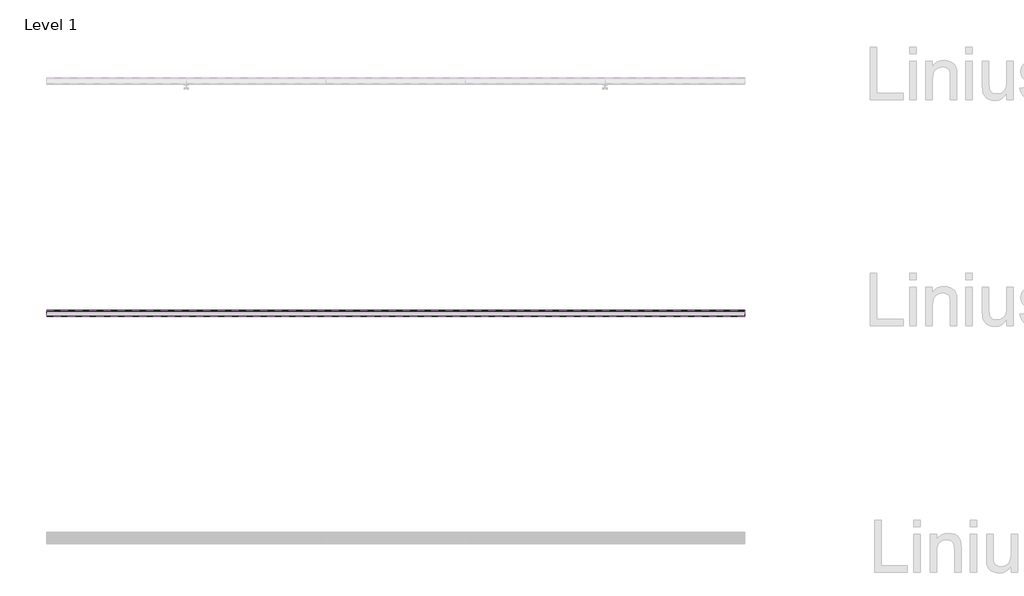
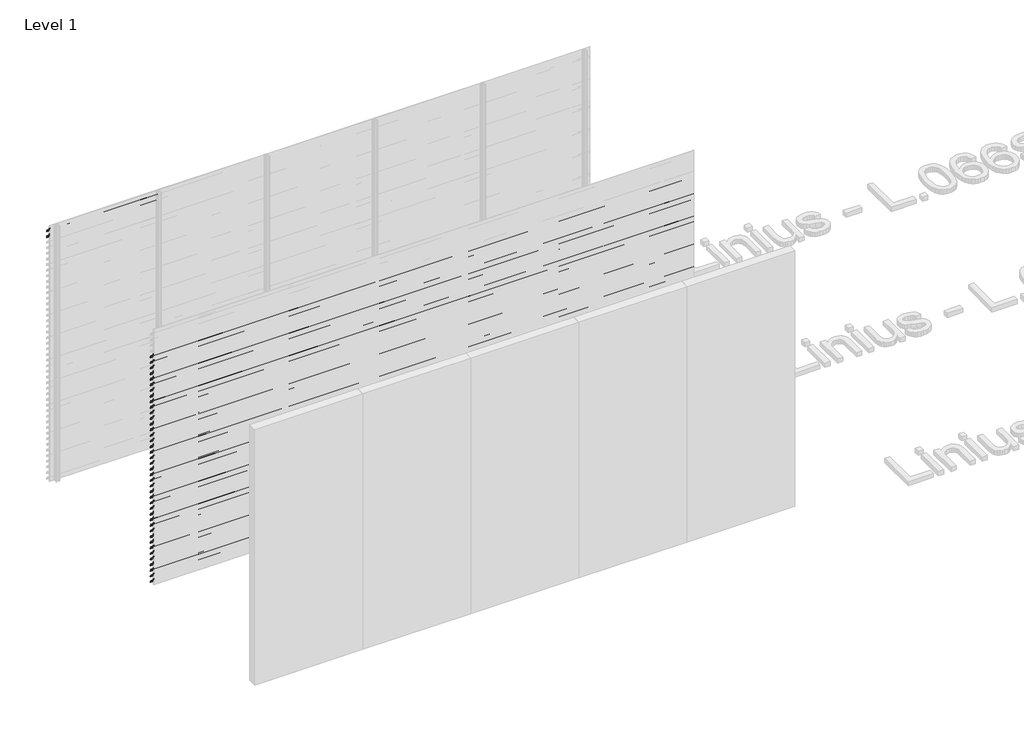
# One storey, part 131 of 540: 43 proxies.
"""IFC4 building model written with IfcOpenShell, lengths in millimetres."""

from ifc_helpers import new_model, si_unit, point, frame, frame_2d, origin, place, context, project, spatial, polyline, circle_curve, trimmed, segment, composite_curve, outline, extrude, element, save

model = new_model("IFC4")

# Units and contexts
model_context = context("Model", 3, world=origin())
ifc_project = project(units=[si_unit("LENGTHUNIT", "METRE", prefix="MILLI")], contexts=[model_context])

# Site, building, storey
site = spatial("IfcSite", under=ifc_project)
building = spatial("IfcBuilding", under=site)
storey = spatial("IfcBuildingStorey", under=building, Name="Level 1", Elevation=0.0)

# Proxies
placement = place(None, origin())
element("IfcBuildingElementProxy", 1, Name="Wall Sweeps", at=placement, inside=storey, context=model_context, shape_type="SweptSolid", body=[
    extrude(outline(composite_curve([segment(trimmed(circle_curve(frame_2d((21513.609548, 2899.7676769)), 26.4944656), [point((21530.5717655, 2920.1205608))], [point((21540.0540136, 2901.3946208))], False, "CARTESIAN"), True, "CONTINUOUS"), segment(polyline([(21540.0540136, 2901.3946208), (21540.0540136, 2893.5), (21538.8040136, 2894.2216933), (21538.8040136, 2899.7676769)]), True, "CONTINUOUS"), segment(trimmed(circle_curve(frame_2d((21513.609548, 2899.7676769)), 25.1944656), [point((21538.8040136, 2899.7676769))], [point((21529.7815085, 2919.086807))], True, "CARTESIAN"), True, "CONTINUOUS"), segment(polyline([(21529.7815085, 2919.086807), (21485.0540136, 2950.3158044), (21485.0540136, 2970.0), (21486.3040136, 2970.0), (21486.3040136, 2951.0285629), (21530.5717655, 2920.1205608)]), True, "CONTINUOUS")], self_intersect=False)), frame((89466.6208097, 0.0, 0.0), z_axis=(1.0, 0.0, 0.0), x_axis=(0.0, 1.0, 0.0)), (0.0, 0.0, 1.0), 1200.0000002),
])
element("IfcBuildingElementProxy", 2, Name="Wall Sweeps", at=placement, inside=storey, context=model_context, shape_type="SweptSolid", body=[
    extrude(outline(composite_curve([segment(trimmed(circle_curve(frame_2d((21513.609548, 2833.7676769)), 26.4944656), [point((21530.5717655, 2854.1205608))], [point((21540.0540136, 2835.3946208))], False, "CARTESIAN"), True, "CONTINUOUS"), segment(polyline([(21540.0540136, 2835.3946208), (21540.0540136, 2827.5), (21538.8040136, 2828.2216933), (21538.8040136, 2833.7676769)]), True, "CONTINUOUS"), segment(trimmed(circle_curve(frame_2d((21513.609548, 2833.7676769)), 25.1944656), [point((21538.8040136, 2833.7676769))], [point((21529.7815085, 2853.086807))], True, "CARTESIAN"), True, "CONTINUOUS"), segment(polyline([(21529.7815085, 2853.086807), (21485.0540136, 2884.3158044), (21485.0540136, 2904.0), (21486.3040136, 2904.0), (21486.3040136, 2885.0285629), (21530.5717655, 2854.1205608)]), True, "CONTINUOUS")], self_intersect=False)), frame((89466.6208097, 0.0, 0.0), z_axis=(1.0, 0.0, 0.0), x_axis=(0.0, 1.0, 0.0)), (0.0, 0.0, 1.0), 1200.0000002),
])
element("IfcBuildingElementProxy", 3, Name="Wall Sweeps", at=placement, inside=storey, context=model_context, shape_type="SweptSolid", body=[
    extrude(outline(composite_curve([segment(trimmed(circle_curve(frame_2d((19513.609548, 2635.7676769)), 26.4944656), [point((19530.5717655, 2656.1205608))], [point((19540.0540136, 2637.3946208))], False, "CARTESIAN"), True, "CONTINUOUS"), segment(polyline([(19540.0540136, 2637.3946208), (19540.0540136, 2629.5), (19538.8040136, 2630.2216933), (19538.8040136, 2635.7676769)]), True, "CONTINUOUS"), segment(trimmed(circle_curve(frame_2d((19513.609548, 2635.7676769)), 25.1944656), [point((19538.8040136, 2635.7676769))], [point((19529.7815085, 2655.086807))], True, "CARTESIAN"), True, "CONTINUOUS"), segment(polyline([(19529.7815085, 2655.086807), (19485.0540136, 2686.3158044), (19485.0540136, 2706.0), (19486.3040136, 2706.0), (19486.3040136, 2687.0285629), (19530.5717655, 2656.1205608)]), True, "CONTINUOUS")], self_intersect=False)), frame((89466.6208097, 0.0, 0.0), z_axis=(1.0, 0.0, 0.0), x_axis=(0.0, 1.0, 0.0)), (0.0, 0.0, 1.0), 6000.0),
])
element("IfcBuildingElementProxy", 4, Name="Wall Sweeps", at=placement, inside=storey, context=model_context, shape_type="SweptSolid", body=[
    extrude(outline(composite_curve([segment(trimmed(circle_curve(frame_2d((19513.609548, 2569.7676769)), 26.4944656), [point((19530.5717655, 2590.1205608))], [point((19540.0540136, 2571.3946208))], False, "CARTESIAN"), True, "CONTINUOUS"), segment(polyline([(19540.0540136, 2571.3946208), (19540.0540136, 2563.5), (19538.8040136, 2564.2216933), (19538.8040136, 2569.7676769)]), True, "CONTINUOUS"), segment(trimmed(circle_curve(frame_2d((19513.609548, 2569.7676769)), 25.1944656), [point((19538.8040136, 2569.7676769))], [point((19529.7815085, 2589.086807))], True, "CARTESIAN"), True, "CONTINUOUS"), segment(polyline([(19529.7815085, 2589.086807), (19485.0540136, 2620.3158044), (19485.0540136, 2640.0), (19486.3040136, 2640.0), (19486.3040136, 2621.0285629), (19530.5717655, 2590.1205608)]), True, "CONTINUOUS")], self_intersect=False)), frame((89466.6208097, 0.0, 0.0), z_axis=(1.0, 0.0, 0.0), x_axis=(0.0, 1.0, 0.0)), (0.0, 0.0, 1.0), 6000.0),
])
element("IfcBuildingElementProxy", 5, Name="Wall Sweeps", at=placement, inside=storey, context=model_context, shape_type="SweptSolid", body=[
    extrude(outline(composite_curve([segment(trimmed(circle_curve(frame_2d((19513.609548, 2503.7676769)), 26.4944656), [point((19530.5717655, 2524.1205608))], [point((19540.0540136, 2505.3946208))], False, "CARTESIAN"), True, "CONTINUOUS"), segment(polyline([(19540.0540136, 2505.3946208), (19540.0540136, 2497.5), (19538.8040136, 2498.2216933), (19538.8040136, 2503.7676769)]), True, "CONTINUOUS"), segment(trimmed(circle_curve(frame_2d((19513.609548, 2503.7676769)), 25.1944656), [point((19538.8040136, 2503.7676769))], [point((19529.7815085, 2523.086807))], True, "CARTESIAN"), True, "CONTINUOUS"), segment(polyline([(19529.7815085, 2523.086807), (19485.0540136, 2554.3158044), (19485.0540136, 2574.0), (19486.3040136, 2574.0), (19486.3040136, 2555.0285629), (19530.5717655, 2524.1205608)]), True, "CONTINUOUS")], self_intersect=False)), frame((89466.6208097, 0.0, 0.0), z_axis=(1.0, 0.0, 0.0), x_axis=(0.0, 1.0, 0.0)), (0.0, 0.0, 1.0), 6000.0),
])
element("IfcBuildingElementProxy", 6, Name="Wall Sweeps", at=placement, inside=storey, context=model_context, shape_type="SweptSolid", body=[
    extrude(outline(composite_curve([segment(trimmed(circle_curve(frame_2d((19513.609548, 2437.7676769)), 26.4944656), [point((19530.5717655, 2458.1205608))], [point((19540.0540136, 2439.3946208))], False, "CARTESIAN"), True, "CONTINUOUS"), segment(polyline([(19540.0540136, 2439.3946208), (19540.0540136, 2431.5), (19538.8040136, 2432.2216933), (19538.8040136, 2437.7676769)]), True, "CONTINUOUS"), segment(trimmed(circle_curve(frame_2d((19513.609548, 2437.7676769)), 25.1944656), [point((19538.8040136, 2437.7676769))], [point((19529.7815085, 2457.086807))], True, "CARTESIAN"), True, "CONTINUOUS"), segment(polyline([(19529.7815085, 2457.086807), (19485.0540136, 2488.3158044), (19485.0540136, 2508.0), (19486.3040136, 2508.0), (19486.3040136, 2489.0285629), (19530.5717655, 2458.1205608)]), True, "CONTINUOUS")], self_intersect=False)), frame((89466.6208097, 0.0, 0.0), z_axis=(1.0, 0.0, 0.0), x_axis=(0.0, 1.0, 0.0)), (0.0, 0.0, 1.0), 6000.0),
])
element("IfcBuildingElementProxy", 7, Name="Wall Sweeps", at=placement, inside=storey, context=model_context, shape_type="SweptSolid", body=[
    extrude(outline(composite_curve([segment(trimmed(circle_curve(frame_2d((19513.609548, 2371.7676769)), 26.4944656), [point((19530.5717655, 2392.1205608))], [point((19540.0540136, 2373.3946208))], False, "CARTESIAN"), True, "CONTINUOUS"), segment(polyline([(19540.0540136, 2373.3946208), (19540.0540136, 2365.5), (19538.8040136, 2366.2216933), (19538.8040136, 2371.7676769)]), True, "CONTINUOUS"), segment(trimmed(circle_curve(frame_2d((19513.609548, 2371.7676769)), 25.1944656), [point((19538.8040136, 2371.7676769))], [point((19529.7815085, 2391.086807))], True, "CARTESIAN"), True, "CONTINUOUS"), segment(polyline([(19529.7815085, 2391.086807), (19485.0540136, 2422.3158044), (19485.0540136, 2442.0), (19486.3040136, 2442.0), (19486.3040136, 2423.0285629), (19530.5717655, 2392.1205608)]), True, "CONTINUOUS")], self_intersect=False)), frame((89466.6208097, 0.0, 0.0), z_axis=(1.0, 0.0, 0.0), x_axis=(0.0, 1.0, 0.0)), (0.0, 0.0, 1.0), 6000.0),
])
element("IfcBuildingElementProxy", 8, Name="Wall Sweeps", at=placement, inside=storey, context=model_context, shape_type="SweptSolid", body=[
    extrude(outline(composite_curve([segment(trimmed(circle_curve(frame_2d((19513.609548, 2305.7676769)), 26.4944656), [point((19530.5717655, 2326.1205608))], [point((19540.0540136, 2307.3946208))], False, "CARTESIAN"), True, "CONTINUOUS"), segment(polyline([(19540.0540136, 2307.3946208), (19540.0540136, 2299.5), (19538.8040136, 2300.2216933), (19538.8040136, 2305.7676769)]), True, "CONTINUOUS"), segment(trimmed(circle_curve(frame_2d((19513.609548, 2305.7676769)), 25.1944656), [point((19538.8040136, 2305.7676769))], [point((19529.7815085, 2325.086807))], True, "CARTESIAN"), True, "CONTINUOUS"), segment(polyline([(19529.7815085, 2325.086807), (19485.0540136, 2356.3158044), (19485.0540136, 2376.0), (19486.3040136, 2376.0), (19486.3040136, 2357.0285629), (19530.5717655, 2326.1205608)]), True, "CONTINUOUS")], self_intersect=False)), frame((89466.6208097, 0.0, 0.0), z_axis=(1.0, 0.0, 0.0), x_axis=(0.0, 1.0, 0.0)), (0.0, 0.0, 1.0), 6000.0),
])
element("IfcBuildingElementProxy", 9, Name="Wall Sweeps", at=placement, inside=storey, context=model_context, shape_type="SweptSolid", body=[
    extrude(outline(composite_curve([segment(trimmed(circle_curve(frame_2d((19513.609548, 2239.7676769)), 26.4944656), [point((19530.5717655, 2260.1205608))], [point((19540.0540136, 2241.3946208))], False, "CARTESIAN"), True, "CONTINUOUS"), segment(polyline([(19540.0540136, 2241.3946208), (19540.0540136, 2233.5), (19538.8040136, 2234.2216933), (19538.8040136, 2239.7676769)]), True, "CONTINUOUS"), segment(trimmed(circle_curve(frame_2d((19513.609548, 2239.7676769)), 25.1944656), [point((19538.8040136, 2239.7676769))], [point((19529.7815085, 2259.086807))], True, "CARTESIAN"), True, "CONTINUOUS"), segment(polyline([(19529.7815085, 2259.086807), (19485.0540136, 2290.3158044), (19485.0540136, 2310.0), (19486.3040136, 2310.0), (19486.3040136, 2291.0285629), (19530.5717655, 2260.1205608)]), True, "CONTINUOUS")], self_intersect=False)), frame((89466.6208097, 0.0, 0.0), z_axis=(1.0, 0.0, 0.0), x_axis=(0.0, 1.0, 0.0)), (0.0, 0.0, 1.0), 6000.0),
])
element("IfcBuildingElementProxy", 10, Name="Wall Sweeps", at=placement, inside=storey, context=model_context, shape_type="SweptSolid", body=[
    extrude(outline(composite_curve([segment(trimmed(circle_curve(frame_2d((19513.609548, 2173.7676769)), 26.4944656), [point((19530.5717655, 2194.1205608))], [point((19540.0540136, 2175.3946208))], False, "CARTESIAN"), True, "CONTINUOUS"), segment(polyline([(19540.0540136, 2175.3946208), (19540.0540136, 2167.5), (19538.8040136, 2168.2216933), (19538.8040136, 2173.7676769)]), True, "CONTINUOUS"), segment(trimmed(circle_curve(frame_2d((19513.609548, 2173.7676769)), 25.1944656), [point((19538.8040136, 2173.7676769))], [point((19529.7815085, 2193.086807))], True, "CARTESIAN"), True, "CONTINUOUS"), segment(polyline([(19529.7815085, 2193.086807), (19485.0540136, 2224.3158044), (19485.0540136, 2244.0), (19486.3040136, 2244.0), (19486.3040136, 2225.0285629), (19530.5717655, 2194.1205608)]), True, "CONTINUOUS")], self_intersect=False)), frame((89466.6208097, 0.0, 0.0), z_axis=(1.0, 0.0, 0.0), x_axis=(0.0, 1.0, 0.0)), (0.0, 0.0, 1.0), 6000.0),
])
element("IfcBuildingElementProxy", 11, Name="Wall Sweeps", at=placement, inside=storey, context=model_context, shape_type="SweptSolid", body=[
    extrude(outline(composite_curve([segment(trimmed(circle_curve(frame_2d((19513.609548, 2107.7676769)), 26.4944656), [point((19530.5717655, 2128.1205608))], [point((19540.0540136, 2109.3946208))], False, "CARTESIAN"), True, "CONTINUOUS"), segment(polyline([(19540.0540136, 2109.3946208), (19540.0540136, 2101.5), (19538.8040136, 2102.2216933), (19538.8040136, 2107.7676769)]), True, "CONTINUOUS"), segment(trimmed(circle_curve(frame_2d((19513.609548, 2107.7676769)), 25.1944656), [point((19538.8040136, 2107.7676769))], [point((19529.7815085, 2127.086807))], True, "CARTESIAN"), True, "CONTINUOUS"), segment(polyline([(19529.7815085, 2127.086807), (19485.0540136, 2158.3158044), (19485.0540136, 2178.0), (19486.3040136, 2178.0), (19486.3040136, 2159.0285629), (19530.5717655, 2128.1205608)]), True, "CONTINUOUS")], self_intersect=False)), frame((89466.6208097, 0.0, 0.0), z_axis=(1.0, 0.0, 0.0), x_axis=(0.0, 1.0, 0.0)), (0.0, 0.0, 1.0), 6000.0),
])
element("IfcBuildingElementProxy", 12, Name="Wall Sweeps", at=placement, inside=storey, context=model_context, shape_type="SweptSolid", body=[
    extrude(outline(composite_curve([segment(trimmed(circle_curve(frame_2d((19513.609548, 2041.7676769)), 26.4944656), [point((19530.5717655, 2062.1205608))], [point((19540.0540136, 2043.3946208))], False, "CARTESIAN"), True, "CONTINUOUS"), segment(polyline([(19540.0540136, 2043.3946208), (19540.0540136, 2035.5), (19538.8040136, 2036.2216933), (19538.8040136, 2041.7676769)]), True, "CONTINUOUS"), segment(trimmed(circle_curve(frame_2d((19513.609548, 2041.7676769)), 25.1944656), [point((19538.8040136, 2041.7676769))], [point((19529.7815085, 2061.086807))], True, "CARTESIAN"), True, "CONTINUOUS"), segment(polyline([(19529.7815085, 2061.086807), (19485.0540136, 2092.3158044), (19485.0540136, 2112.0), (19486.3040136, 2112.0), (19486.3040136, 2093.0285629), (19530.5717655, 2062.1205608)]), True, "CONTINUOUS")], self_intersect=False)), frame((89466.6208097, 0.0, 0.0), z_axis=(1.0, 0.0, 0.0), x_axis=(0.0, 1.0, 0.0)), (0.0, 0.0, 1.0), 6000.0),
])
element("IfcBuildingElementProxy", 13, Name="Wall Sweeps", at=placement, inside=storey, context=model_context, shape_type="SweptSolid", body=[
    extrude(outline(composite_curve([segment(trimmed(circle_curve(frame_2d((19513.609548, 1975.7676769)), 26.4944656), [point((19530.5717655, 1996.1205608))], [point((19540.0540136, 1977.3946208))], False, "CARTESIAN"), True, "CONTINUOUS"), segment(polyline([(19540.0540136, 1977.3946208), (19540.0540136, 1969.5), (19538.8040136, 1970.2216933), (19538.8040136, 1975.7676769)]), True, "CONTINUOUS"), segment(trimmed(circle_curve(frame_2d((19513.609548, 1975.7676769)), 25.1944656), [point((19538.8040136, 1975.7676769))], [point((19529.7815085, 1995.086807))], True, "CARTESIAN"), True, "CONTINUOUS"), segment(polyline([(19529.7815085, 1995.086807), (19485.0540136, 2026.3158044), (19485.0540136, 2046.0), (19486.3040136, 2046.0), (19486.3040136, 2027.0285629), (19530.5717655, 1996.1205608)]), True, "CONTINUOUS")], self_intersect=False)), frame((89466.6208097, 0.0, 0.0), z_axis=(1.0, 0.0, 0.0), x_axis=(0.0, 1.0, 0.0)), (0.0, 0.0, 1.0), 6000.0),
])
element("IfcBuildingElementProxy", 14, Name="Wall Sweeps", at=placement, inside=storey, context=model_context, shape_type="SweptSolid", body=[
    extrude(outline(composite_curve([segment(trimmed(circle_curve(frame_2d((19513.609548, 1909.7676769)), 26.4944656), [point((19530.5717655, 1930.1205608))], [point((19540.0540136, 1911.3946208))], False, "CARTESIAN"), True, "CONTINUOUS"), segment(polyline([(19540.0540136, 1911.3946208), (19540.0540136, 1903.5), (19538.8040136, 1904.2216933), (19538.8040136, 1909.7676769)]), True, "CONTINUOUS"), segment(trimmed(circle_curve(frame_2d((19513.609548, 1909.7676769)), 25.1944656), [point((19538.8040136, 1909.7676769))], [point((19529.7815085, 1929.086807))], True, "CARTESIAN"), True, "CONTINUOUS"), segment(polyline([(19529.7815085, 1929.086807), (19485.0540136, 1960.3158044), (19485.0540136, 1980.0), (19486.3040136, 1980.0), (19486.3040136, 1961.0285629), (19530.5717655, 1930.1205608)]), True, "CONTINUOUS")], self_intersect=False)), frame((89466.6208097, 0.0, 0.0), z_axis=(1.0, 0.0, 0.0), x_axis=(0.0, 1.0, 0.0)), (0.0, 0.0, 1.0), 6000.0),
])
element("IfcBuildingElementProxy", 15, Name="Wall Sweeps", at=placement, inside=storey, context=model_context, shape_type="SweptSolid", body=[
    extrude(outline(composite_curve([segment(trimmed(circle_curve(frame_2d((19513.609548, 1843.7676769)), 26.4944656), [point((19530.5717655, 1864.1205608))], [point((19540.0540136, 1845.3946208))], False, "CARTESIAN"), True, "CONTINUOUS"), segment(polyline([(19540.0540136, 1845.3946208), (19540.0540136, 1837.5), (19538.8040136, 1838.2216933), (19538.8040136, 1843.7676769)]), True, "CONTINUOUS"), segment(trimmed(circle_curve(frame_2d((19513.609548, 1843.7676769)), 25.1944656), [point((19538.8040136, 1843.7676769))], [point((19529.7815085, 1863.086807))], True, "CARTESIAN"), True, "CONTINUOUS"), segment(polyline([(19529.7815085, 1863.086807), (19485.0540136, 1894.3158044), (19485.0540136, 1914.0), (19486.3040136, 1914.0), (19486.3040136, 1895.0285629), (19530.5717655, 1864.1205608)]), True, "CONTINUOUS")], self_intersect=False)), frame((89466.6208097, 0.0, 0.0), z_axis=(1.0, 0.0, 0.0), x_axis=(0.0, 1.0, 0.0)), (0.0, 0.0, 1.0), 6000.0),
])
element("IfcBuildingElementProxy", 16, Name="Wall Sweeps", at=placement, inside=storey, context=model_context, shape_type="SweptSolid", body=[
    extrude(outline(composite_curve([segment(trimmed(circle_curve(frame_2d((19513.609548, 1777.7676769)), 26.4944656), [point((19530.5717655, 1798.1205608))], [point((19540.0540136, 1779.3946208))], False, "CARTESIAN"), True, "CONTINUOUS"), segment(polyline([(19540.0540136, 1779.3946208), (19540.0540136, 1771.5), (19538.8040136, 1772.2216933), (19538.8040136, 1777.7676769)]), True, "CONTINUOUS"), segment(trimmed(circle_curve(frame_2d((19513.609548, 1777.7676769)), 25.1944656), [point((19538.8040136, 1777.7676769))], [point((19529.7815085, 1797.086807))], True, "CARTESIAN"), True, "CONTINUOUS"), segment(polyline([(19529.7815085, 1797.086807), (19485.0540136, 1828.3158044), (19485.0540136, 1848.0), (19486.3040136, 1848.0), (19486.3040136, 1829.0285629), (19530.5717655, 1798.1205608)]), True, "CONTINUOUS")], self_intersect=False)), frame((89466.6208097, 0.0, 0.0), z_axis=(1.0, 0.0, 0.0), x_axis=(0.0, 1.0, 0.0)), (0.0, 0.0, 1.0), 6000.0),
])
element("IfcBuildingElementProxy", 17, Name="Wall Sweeps", at=placement, inside=storey, context=model_context, shape_type="SweptSolid", body=[
    extrude(outline(composite_curve([segment(trimmed(circle_curve(frame_2d((19513.609548, 1711.7676769)), 26.4944656), [point((19530.5717655, 1732.1205608))], [point((19540.0540136, 1713.3946208))], False, "CARTESIAN"), True, "CONTINUOUS"), segment(polyline([(19540.0540136, 1713.3946208), (19540.0540136, 1705.5), (19538.8040136, 1706.2216933), (19538.8040136, 1711.7676769)]), True, "CONTINUOUS"), segment(trimmed(circle_curve(frame_2d((19513.609548, 1711.7676769)), 25.1944656), [point((19538.8040136, 1711.7676769))], [point((19529.7815085, 1731.086807))], True, "CARTESIAN"), True, "CONTINUOUS"), segment(polyline([(19529.7815085, 1731.086807), (19485.0540136, 1762.3158044), (19485.0540136, 1782.0), (19486.3040136, 1782.0), (19486.3040136, 1763.0285629), (19530.5717655, 1732.1205608)]), True, "CONTINUOUS")], self_intersect=False)), frame((89466.6208097, 0.0, 0.0), z_axis=(1.0, 0.0, 0.0), x_axis=(0.0, 1.0, 0.0)), (0.0, 0.0, 1.0), 6000.0),
])
element("IfcBuildingElementProxy", 18, Name="Wall Sweeps", at=placement, inside=storey, context=model_context, shape_type="SweptSolid", body=[
    extrude(outline(composite_curve([segment(trimmed(circle_curve(frame_2d((19513.609548, 1645.7676769)), 26.4944656), [point((19530.5717655, 1666.1205608))], [point((19540.0540136, 1647.3946208))], False, "CARTESIAN"), True, "CONTINUOUS"), segment(polyline([(19540.0540136, 1647.3946208), (19540.0540136, 1639.5), (19538.8040136, 1640.2216933), (19538.8040136, 1645.7676769)]), True, "CONTINUOUS"), segment(trimmed(circle_curve(frame_2d((19513.609548, 1645.7676769)), 25.1944656), [point((19538.8040136, 1645.7676769))], [point((19529.7815085, 1665.086807))], True, "CARTESIAN"), True, "CONTINUOUS"), segment(polyline([(19529.7815085, 1665.086807), (19485.0540136, 1696.3158044), (19485.0540136, 1716.0), (19486.3040136, 1716.0), (19486.3040136, 1697.0285629), (19530.5717655, 1666.1205608)]), True, "CONTINUOUS")], self_intersect=False)), frame((89466.6208097, 0.0, 0.0), z_axis=(1.0, 0.0, 0.0), x_axis=(0.0, 1.0, 0.0)), (0.0, 0.0, 1.0), 6000.0),
])
element("IfcBuildingElementProxy", 19, Name="Wall Sweeps", at=placement, inside=storey, context=model_context, shape_type="SweptSolid", body=[
    extrude(outline(composite_curve([segment(trimmed(circle_curve(frame_2d((19513.609548, 1579.7676769)), 26.4944656), [point((19530.5717655, 1600.1205608))], [point((19540.0540136, 1581.3946208))], False, "CARTESIAN"), True, "CONTINUOUS"), segment(polyline([(19540.0540136, 1581.3946208), (19540.0540136, 1573.5), (19538.8040136, 1574.2216933), (19538.8040136, 1579.7676769)]), True, "CONTINUOUS"), segment(trimmed(circle_curve(frame_2d((19513.609548, 1579.7676769)), 25.1944656), [point((19538.8040136, 1579.7676769))], [point((19529.7815085, 1599.086807))], True, "CARTESIAN"), True, "CONTINUOUS"), segment(polyline([(19529.7815085, 1599.086807), (19485.0540136, 1630.3158044), (19485.0540136, 1650.0), (19486.3040136, 1650.0), (19486.3040136, 1631.0285629), (19530.5717655, 1600.1205608)]), True, "CONTINUOUS")], self_intersect=False)), frame((89466.6208097, 0.0, 0.0), z_axis=(1.0, 0.0, 0.0), x_axis=(0.0, 1.0, 0.0)), (0.0, 0.0, 1.0), 6000.0),
])
element("IfcBuildingElementProxy", 20, Name="Wall Sweeps", at=placement, inside=storey, context=model_context, shape_type="SweptSolid", body=[
    extrude(outline(composite_curve([segment(trimmed(circle_curve(frame_2d((19513.609548, 1513.7676769)), 26.4944656), [point((19530.5717655, 1534.1205608))], [point((19540.0540136, 1515.3946208))], False, "CARTESIAN"), True, "CONTINUOUS"), segment(polyline([(19540.0540136, 1515.3946208), (19540.0540136, 1507.5), (19538.8040136, 1508.2216933), (19538.8040136, 1513.7676769)]), True, "CONTINUOUS"), segment(trimmed(circle_curve(frame_2d((19513.609548, 1513.7676769)), 25.1944656), [point((19538.8040136, 1513.7676769))], [point((19529.7815085, 1533.086807))], True, "CARTESIAN"), True, "CONTINUOUS"), segment(polyline([(19529.7815085, 1533.086807), (19485.0540136, 1564.3158044), (19485.0540136, 1584.0), (19486.3040136, 1584.0), (19486.3040136, 1565.0285629), (19530.5717655, 1534.1205608)]), True, "CONTINUOUS")], self_intersect=False)), frame((89466.6208097, 0.0, 0.0), z_axis=(1.0, 0.0, 0.0), x_axis=(0.0, 1.0, 0.0)), (0.0, 0.0, 1.0), 6000.0),
])
element("IfcBuildingElementProxy", 21, Name="Wall Sweeps", at=placement, inside=storey, context=model_context, shape_type="SweptSolid", body=[
    extrude(outline(composite_curve([segment(trimmed(circle_curve(frame_2d((19513.609548, 1447.7676769)), 26.4944656), [point((19530.5717655, 1468.1205608))], [point((19540.0540136, 1449.3946208))], False, "CARTESIAN"), True, "CONTINUOUS"), segment(polyline([(19540.0540136, 1449.3946208), (19540.0540136, 1441.5), (19538.8040136, 1442.2216933), (19538.8040136, 1447.7676769)]), True, "CONTINUOUS"), segment(trimmed(circle_curve(frame_2d((19513.609548, 1447.7676769)), 25.1944656), [point((19538.8040136, 1447.7676769))], [point((19529.7815085, 1467.086807))], True, "CARTESIAN"), True, "CONTINUOUS"), segment(polyline([(19529.7815085, 1467.086807), (19485.0540136, 1498.3158044), (19485.0540136, 1518.0), (19486.3040136, 1518.0), (19486.3040136, 1499.0285629), (19530.5717655, 1468.1205608)]), True, "CONTINUOUS")], self_intersect=False)), frame((89466.6208097, 0.0, 0.0), z_axis=(1.0, 0.0, 0.0), x_axis=(0.0, 1.0, 0.0)), (0.0, 0.0, 1.0), 6000.0),
])
element("IfcBuildingElementProxy", 22, Name="Wall Sweeps", at=placement, inside=storey, context=model_context, shape_type="SweptSolid", body=[
    extrude(outline(composite_curve([segment(trimmed(circle_curve(frame_2d((19513.609548, 1381.7676769)), 26.4944656), [point((19530.5717655, 1402.1205608))], [point((19540.0540136, 1383.3946208))], False, "CARTESIAN"), True, "CONTINUOUS"), segment(polyline([(19540.0540136, 1383.3946208), (19540.0540136, 1375.5), (19538.8040136, 1376.2216933), (19538.8040136, 1381.7676769)]), True, "CONTINUOUS"), segment(trimmed(circle_curve(frame_2d((19513.609548, 1381.7676769)), 25.1944656), [point((19538.8040136, 1381.7676769))], [point((19529.7815085, 1401.086807))], True, "CARTESIAN"), True, "CONTINUOUS"), segment(polyline([(19529.7815085, 1401.086807), (19485.0540136, 1432.3158044), (19485.0540136, 1452.0), (19486.3040136, 1452.0), (19486.3040136, 1433.0285629), (19530.5717655, 1402.1205608)]), True, "CONTINUOUS")], self_intersect=False)), frame((89466.6208097, 0.0, 0.0), z_axis=(1.0, 0.0, 0.0), x_axis=(0.0, 1.0, 0.0)), (0.0, 0.0, 1.0), 6000.0),
])
element("IfcBuildingElementProxy", 23, Name="Wall Sweeps", at=placement, inside=storey, context=model_context, shape_type="SweptSolid", body=[
    extrude(outline(composite_curve([segment(trimmed(circle_curve(frame_2d((19513.609548, 1315.7676769)), 26.4944656), [point((19530.5717655, 1336.1205608))], [point((19540.0540136, 1317.3946208))], False, "CARTESIAN"), True, "CONTINUOUS"), segment(polyline([(19540.0540136, 1317.3946208), (19540.0540136, 1309.5), (19538.8040136, 1310.2216933), (19538.8040136, 1315.7676769)]), True, "CONTINUOUS"), segment(trimmed(circle_curve(frame_2d((19513.609548, 1315.7676769)), 25.1944656), [point((19538.8040136, 1315.7676769))], [point((19529.7815085, 1335.086807))], True, "CARTESIAN"), True, "CONTINUOUS"), segment(polyline([(19529.7815085, 1335.086807), (19485.0540136, 1366.3158044), (19485.0540136, 1386.0), (19486.3040136, 1386.0), (19486.3040136, 1367.0285629), (19530.5717655, 1336.1205608)]), True, "CONTINUOUS")], self_intersect=False)), frame((89466.6208097, 0.0, 0.0), z_axis=(1.0, 0.0, 0.0), x_axis=(0.0, 1.0, 0.0)), (0.0, 0.0, 1.0), 6000.0),
])
element("IfcBuildingElementProxy", 24, Name="Wall Sweeps", at=placement, inside=storey, context=model_context, shape_type="SweptSolid", body=[
    extrude(outline(composite_curve([segment(trimmed(circle_curve(frame_2d((19513.609548, 1249.7676769)), 26.4944656), [point((19530.5717655, 1270.1205608))], [point((19540.0540136, 1251.3946208))], False, "CARTESIAN"), True, "CONTINUOUS"), segment(polyline([(19540.0540136, 1251.3946208), (19540.0540136, 1243.5), (19538.8040136, 1244.2216933), (19538.8040136, 1249.7676769)]), True, "CONTINUOUS"), segment(trimmed(circle_curve(frame_2d((19513.609548, 1249.7676769)), 25.1944656), [point((19538.8040136, 1249.7676769))], [point((19529.7815085, 1269.086807))], True, "CARTESIAN"), True, "CONTINUOUS"), segment(polyline([(19529.7815085, 1269.086807), (19485.0540136, 1300.3158044), (19485.0540136, 1320.0), (19486.3040136, 1320.0), (19486.3040136, 1301.0285629), (19530.5717655, 1270.1205608)]), True, "CONTINUOUS")], self_intersect=False)), frame((89466.6208097, 0.0, 0.0), z_axis=(1.0, 0.0, 0.0), x_axis=(0.0, 1.0, 0.0)), (0.0, 0.0, 1.0), 6000.0),
])
element("IfcBuildingElementProxy", 25, Name="Wall Sweeps", at=placement, inside=storey, context=model_context, shape_type="SweptSolid", body=[
    extrude(outline(composite_curve([segment(trimmed(circle_curve(frame_2d((19513.609548, 1183.7676769)), 26.4944656), [point((19530.5717655, 1204.1205608))], [point((19540.0540136, 1185.3946208))], False, "CARTESIAN"), True, "CONTINUOUS"), segment(polyline([(19540.0540136, 1185.3946208), (19540.0540136, 1177.5), (19538.8040136, 1178.2216933), (19538.8040136, 1183.7676769)]), True, "CONTINUOUS"), segment(trimmed(circle_curve(frame_2d((19513.609548, 1183.7676769)), 25.1944656), [point((19538.8040136, 1183.7676769))], [point((19529.7815085, 1203.086807))], True, "CARTESIAN"), True, "CONTINUOUS"), segment(polyline([(19529.7815085, 1203.086807), (19485.0540136, 1234.3158044), (19485.0540136, 1254.0), (19486.3040136, 1254.0), (19486.3040136, 1235.0285629), (19530.5717655, 1204.1205608)]), True, "CONTINUOUS")], self_intersect=False)), frame((89466.6208097, 0.0, 0.0), z_axis=(1.0, 0.0, 0.0), x_axis=(0.0, 1.0, 0.0)), (0.0, 0.0, 1.0), 6000.0),
])
element("IfcBuildingElementProxy", 26, Name="Wall Sweeps", at=placement, inside=storey, context=model_context, shape_type="SweptSolid", body=[
    extrude(outline(composite_curve([segment(trimmed(circle_curve(frame_2d((19513.609548, 1117.7676769)), 26.4944656), [point((19530.5717655, 1138.1205608))], [point((19540.0540136, 1119.3946208))], False, "CARTESIAN"), True, "CONTINUOUS"), segment(polyline([(19540.0540136, 1119.3946208), (19540.0540136, 1111.5), (19538.8040136, 1112.2216933), (19538.8040136, 1117.7676769)]), True, "CONTINUOUS"), segment(trimmed(circle_curve(frame_2d((19513.609548, 1117.7676769)), 25.1944656), [point((19538.8040136, 1117.7676769))], [point((19529.7815085, 1137.086807))], True, "CARTESIAN"), True, "CONTINUOUS"), segment(polyline([(19529.7815085, 1137.086807), (19485.0540136, 1168.3158044), (19485.0540136, 1188.0), (19486.3040136, 1188.0), (19486.3040136, 1169.0285629), (19530.5717655, 1138.1205608)]), True, "CONTINUOUS")], self_intersect=False)), frame((89466.6208097, 0.0, 0.0), z_axis=(1.0, 0.0, 0.0), x_axis=(0.0, 1.0, 0.0)), (0.0, 0.0, 1.0), 6000.0),
])
element("IfcBuildingElementProxy", 27, Name="Wall Sweeps", at=placement, inside=storey, context=model_context, shape_type="SweptSolid", body=[
    extrude(outline(composite_curve([segment(trimmed(circle_curve(frame_2d((19513.609548, 1051.7676769)), 26.4944656), [point((19530.5717655, 1072.1205608))], [point((19540.0540136, 1053.3946208))], False, "CARTESIAN"), True, "CONTINUOUS"), segment(polyline([(19540.0540136, 1053.3946208), (19540.0540136, 1045.5), (19538.8040136, 1046.2216933), (19538.8040136, 1051.7676769)]), True, "CONTINUOUS"), segment(trimmed(circle_curve(frame_2d((19513.609548, 1051.7676769)), 25.1944656), [point((19538.8040136, 1051.7676769))], [point((19529.7815085, 1071.086807))], True, "CARTESIAN"), True, "CONTINUOUS"), segment(polyline([(19529.7815085, 1071.086807), (19485.0540136, 1102.3158044), (19485.0540136, 1122.0), (19486.3040136, 1122.0), (19486.3040136, 1103.0285629), (19530.5717655, 1072.1205608)]), True, "CONTINUOUS")], self_intersect=False)), frame((89466.6208097, 0.0, 0.0), z_axis=(1.0, 0.0, 0.0), x_axis=(0.0, 1.0, 0.0)), (0.0, 0.0, 1.0), 6000.0),
])
element("IfcBuildingElementProxy", 28, Name="Wall Sweeps", at=placement, inside=storey, context=model_context, shape_type="SweptSolid", body=[
    extrude(outline(composite_curve([segment(trimmed(circle_curve(frame_2d((19513.609548, 985.7676769)), 26.4944656), [point((19530.5717655, 1006.1205608))], [point((19540.0540136, 987.3946208))], False, "CARTESIAN"), True, "CONTINUOUS"), segment(polyline([(19540.0540136, 987.3946208), (19540.0540136, 979.5), (19538.8040136, 980.2216933), (19538.8040136, 985.7676769)]), True, "CONTINUOUS"), segment(trimmed(circle_curve(frame_2d((19513.609548, 985.7676769)), 25.1944656), [point((19538.8040136, 985.7676769))], [point((19529.7815085, 1005.086807))], True, "CARTESIAN"), True, "CONTINUOUS"), segment(polyline([(19529.7815085, 1005.086807), (19485.0540136, 1036.3158044), (19485.0540136, 1056.0), (19486.3040136, 1056.0), (19486.3040136, 1037.0285629), (19530.5717655, 1006.1205608)]), True, "CONTINUOUS")], self_intersect=False)), frame((89466.6208097, 0.0, 0.0), z_axis=(1.0, 0.0, 0.0), x_axis=(0.0, 1.0, 0.0)), (0.0, 0.0, 1.0), 6000.0),
])
element("IfcBuildingElementProxy", 29, Name="Wall Sweeps", at=placement, inside=storey, context=model_context, shape_type="SweptSolid", body=[
    extrude(outline(composite_curve([segment(trimmed(circle_curve(frame_2d((19513.609548, 919.7676769)), 26.4944656), [point((19530.5717655, 940.1205608))], [point((19540.0540136, 921.3946208))], False, "CARTESIAN"), True, "CONTINUOUS"), segment(polyline([(19540.0540136, 921.3946208), (19540.0540136, 913.5), (19538.8040136, 914.2216933), (19538.8040136, 919.7676769)]), True, "CONTINUOUS"), segment(trimmed(circle_curve(frame_2d((19513.609548, 919.7676769)), 25.1944656), [point((19538.8040136, 919.7676769))], [point((19529.7815085, 939.086807))], True, "CARTESIAN"), True, "CONTINUOUS"), segment(polyline([(19529.7815085, 939.086807), (19485.0540136, 970.3158044), (19485.0540136, 990.0), (19486.3040136, 990.0), (19486.3040136, 971.0285629), (19530.5717655, 940.1205608)]), True, "CONTINUOUS")], self_intersect=False)), frame((89466.6208097, 0.0, 0.0), z_axis=(1.0, 0.0, 0.0), x_axis=(0.0, 1.0, 0.0)), (0.0, 0.0, 1.0), 6000.0),
])
element("IfcBuildingElementProxy", 30, Name="Wall Sweeps", at=placement, inside=storey, context=model_context, shape_type="SweptSolid", body=[
    extrude(outline(composite_curve([segment(trimmed(circle_curve(frame_2d((19513.609548, 853.7676769)), 26.4944656), [point((19530.5717655, 874.1205608))], [point((19540.0540136, 855.3946208))], False, "CARTESIAN"), True, "CONTINUOUS"), segment(polyline([(19540.0540136, 855.3946208), (19540.0540136, 847.5), (19538.8040136, 848.2216933), (19538.8040136, 853.7676769)]), True, "CONTINUOUS"), segment(trimmed(circle_curve(frame_2d((19513.609548, 853.7676769)), 25.1944656), [point((19538.8040136, 853.7676769))], [point((19529.7815085, 873.086807))], True, "CARTESIAN"), True, "CONTINUOUS"), segment(polyline([(19529.7815085, 873.086807), (19485.0540136, 904.3158044), (19485.0540136, 924.0), (19486.3040136, 924.0), (19486.3040136, 905.0285629), (19530.5717655, 874.1205608)]), True, "CONTINUOUS")], self_intersect=False)), frame((89466.6208097, 0.0, 0.0), z_axis=(1.0, 0.0, 0.0), x_axis=(0.0, 1.0, 0.0)), (0.0, 0.0, 1.0), 6000.0),
])
element("IfcBuildingElementProxy", 31, Name="Wall Sweeps", at=placement, inside=storey, context=model_context, shape_type="SweptSolid", body=[
    extrude(outline(composite_curve([segment(trimmed(circle_curve(frame_2d((19513.609548, 787.7676769)), 26.4944656), [point((19530.5717655, 808.1205608))], [point((19540.0540136, 789.3946208))], False, "CARTESIAN"), True, "CONTINUOUS"), segment(polyline([(19540.0540136, 789.3946208), (19540.0540136, 781.5), (19538.8040136, 782.2216933), (19538.8040136, 787.7676769)]), True, "CONTINUOUS"), segment(trimmed(circle_curve(frame_2d((19513.609548, 787.7676769)), 25.1944656), [point((19538.8040136, 787.7676769))], [point((19529.7815085, 807.086807))], True, "CARTESIAN"), True, "CONTINUOUS"), segment(polyline([(19529.7815085, 807.086807), (19485.0540136, 838.3158044), (19485.0540136, 858.0), (19486.3040136, 858.0), (19486.3040136, 839.0285629), (19530.5717655, 808.1205608)]), True, "CONTINUOUS")], self_intersect=False)), frame((89466.6208097, 0.0, 0.0), z_axis=(1.0, 0.0, 0.0), x_axis=(0.0, 1.0, 0.0)), (0.0, 0.0, 1.0), 6000.0),
])
element("IfcBuildingElementProxy", 32, Name="Wall Sweeps", at=placement, inside=storey, context=model_context, shape_type="SweptSolid", body=[
    extrude(outline(composite_curve([segment(trimmed(circle_curve(frame_2d((19513.609548, 721.7676769)), 26.4944656), [point((19530.5717655, 742.1205608))], [point((19540.0540136, 723.3946208))], False, "CARTESIAN"), True, "CONTINUOUS"), segment(polyline([(19540.0540136, 723.3946208), (19540.0540136, 715.5), (19538.8040136, 716.2216933), (19538.8040136, 721.7676769)]), True, "CONTINUOUS"), segment(trimmed(circle_curve(frame_2d((19513.609548, 721.7676769)), 25.1944656), [point((19538.8040136, 721.7676769))], [point((19529.7815085, 741.086807))], True, "CARTESIAN"), True, "CONTINUOUS"), segment(polyline([(19529.7815085, 741.086807), (19485.0540136, 772.3158044), (19485.0540136, 792.0), (19486.3040136, 792.0), (19486.3040136, 773.0285629), (19530.5717655, 742.1205608)]), True, "CONTINUOUS")], self_intersect=False)), frame((89466.6208097, 0.0, 0.0), z_axis=(1.0, 0.0, 0.0), x_axis=(0.0, 1.0, 0.0)), (0.0, 0.0, 1.0), 6000.0),
])
element("IfcBuildingElementProxy", 33, Name="Wall Sweeps", at=placement, inside=storey, context=model_context, shape_type="SweptSolid", body=[
    extrude(outline(composite_curve([segment(trimmed(circle_curve(frame_2d((19513.609548, 655.7676769)), 26.4944656), [point((19530.5717655, 676.1205608))], [point((19540.0540136, 657.3946208))], False, "CARTESIAN"), True, "CONTINUOUS"), segment(polyline([(19540.0540136, 657.3946208), (19540.0540136, 649.5), (19538.8040136, 650.2216933), (19538.8040136, 655.7676769)]), True, "CONTINUOUS"), segment(trimmed(circle_curve(frame_2d((19513.609548, 655.7676769)), 25.1944656), [point((19538.8040136, 655.7676769))], [point((19529.7815085, 675.086807))], True, "CARTESIAN"), True, "CONTINUOUS"), segment(polyline([(19529.7815085, 675.086807), (19485.0540136, 706.3158044), (19485.0540136, 726.0), (19486.3040136, 726.0), (19486.3040136, 707.0285629), (19530.5717655, 676.1205608)]), True, "CONTINUOUS")], self_intersect=False)), frame((89466.6208097, 0.0, 0.0), z_axis=(1.0, 0.0, 0.0), x_axis=(0.0, 1.0, 0.0)), (0.0, 0.0, 1.0), 6000.0),
])
element("IfcBuildingElementProxy", 34, Name="Wall Sweeps", at=placement, inside=storey, context=model_context, shape_type="SweptSolid", body=[
    extrude(outline(composite_curve([segment(trimmed(circle_curve(frame_2d((19513.609548, 589.7676769)), 26.4944656), [point((19530.5717655, 610.1205608))], [point((19540.0540136, 591.3946208))], False, "CARTESIAN"), True, "CONTINUOUS"), segment(polyline([(19540.0540136, 591.3946208), (19540.0540136, 583.5), (19538.8040136, 584.2216933), (19538.8040136, 589.7676769)]), True, "CONTINUOUS"), segment(trimmed(circle_curve(frame_2d((19513.609548, 589.7676769)), 25.1944656), [point((19538.8040136, 589.7676769))], [point((19529.7815085, 609.086807))], True, "CARTESIAN"), True, "CONTINUOUS"), segment(polyline([(19529.7815085, 609.086807), (19485.0540136, 640.3158044), (19485.0540136, 660.0), (19486.3040136, 660.0), (19486.3040136, 641.0285629), (19530.5717655, 610.1205608)]), True, "CONTINUOUS")], self_intersect=False)), frame((89466.6208097, 0.0, 0.0), z_axis=(1.0, 0.0, 0.0), x_axis=(0.0, 1.0, 0.0)), (0.0, 0.0, 1.0), 6000.0),
])
element("IfcBuildingElementProxy", 35, Name="Wall Sweeps", at=placement, inside=storey, context=model_context, shape_type="SweptSolid", body=[
    extrude(outline(composite_curve([segment(trimmed(circle_curve(frame_2d((19513.609548, 523.7676769)), 26.4944656), [point((19530.5717655, 544.1205608))], [point((19540.0540136, 525.3946208))], False, "CARTESIAN"), True, "CONTINUOUS"), segment(polyline([(19540.0540136, 525.3946208), (19540.0540136, 517.5), (19538.8040136, 518.2216933), (19538.8040136, 523.7676769)]), True, "CONTINUOUS"), segment(trimmed(circle_curve(frame_2d((19513.609548, 523.7676769)), 25.1944656), [point((19538.8040136, 523.7676769))], [point((19529.7815085, 543.086807))], True, "CARTESIAN"), True, "CONTINUOUS"), segment(polyline([(19529.7815085, 543.086807), (19485.0540136, 574.3158044), (19485.0540136, 594.0), (19486.3040136, 594.0), (19486.3040136, 575.0285629), (19530.5717655, 544.1205608)]), True, "CONTINUOUS")], self_intersect=False)), frame((89466.6208097, 0.0, 0.0), z_axis=(1.0, 0.0, 0.0), x_axis=(0.0, 1.0, 0.0)), (0.0, 0.0, 1.0), 6000.0),
])
element("IfcBuildingElementProxy", 36, Name="Wall Sweeps", at=placement, inside=storey, context=model_context, shape_type="SweptSolid", body=[
    extrude(outline(composite_curve([segment(trimmed(circle_curve(frame_2d((19513.609548, 457.7676769)), 26.4944656), [point((19530.5717655, 478.1205608))], [point((19540.0540136, 459.3946208))], False, "CARTESIAN"), True, "CONTINUOUS"), segment(polyline([(19540.0540136, 459.3946208), (19540.0540136, 451.5), (19538.8040136, 452.2216933), (19538.8040136, 457.7676769)]), True, "CONTINUOUS"), segment(trimmed(circle_curve(frame_2d((19513.609548, 457.7676769)), 25.1944656), [point((19538.8040136, 457.7676769))], [point((19529.7815085, 477.086807))], True, "CARTESIAN"), True, "CONTINUOUS"), segment(polyline([(19529.7815085, 477.086807), (19485.0540136, 508.3158044), (19485.0540136, 528.0), (19486.3040136, 528.0), (19486.3040136, 509.0285629), (19530.5717655, 478.1205608)]), True, "CONTINUOUS")], self_intersect=False)), frame((89466.6208097, 0.0, 0.0), z_axis=(1.0, 0.0, 0.0), x_axis=(0.0, 1.0, 0.0)), (0.0, 0.0, 1.0), 6000.0),
])
element("IfcBuildingElementProxy", 37, Name="Wall Sweeps", at=placement, inside=storey, context=model_context, shape_type="SweptSolid", body=[
    extrude(outline(composite_curve([segment(trimmed(circle_curve(frame_2d((19513.609548, 391.7676769)), 26.4944656), [point((19530.5717655, 412.1205608))], [point((19540.0540136, 393.3946208))], False, "CARTESIAN"), True, "CONTINUOUS"), segment(polyline([(19540.0540136, 393.3946208), (19540.0540136, 385.5), (19538.8040136, 386.2216933), (19538.8040136, 391.7676769)]), True, "CONTINUOUS"), segment(trimmed(circle_curve(frame_2d((19513.609548, 391.7676769)), 25.1944656), [point((19538.8040136, 391.7676769))], [point((19529.7815085, 411.086807))], True, "CARTESIAN"), True, "CONTINUOUS"), segment(polyline([(19529.7815085, 411.086807), (19485.0540136, 442.3158044), (19485.0540136, 462.0), (19486.3040136, 462.0), (19486.3040136, 443.0285629), (19530.5717655, 412.1205608)]), True, "CONTINUOUS")], self_intersect=False)), frame((89466.6208097, 0.0, 0.0), z_axis=(1.0, 0.0, 0.0), x_axis=(0.0, 1.0, 0.0)), (0.0, 0.0, 1.0), 6000.0),
])
element("IfcBuildingElementProxy", 38, Name="Wall Sweeps", at=placement, inside=storey, context=model_context, shape_type="SweptSolid", body=[
    extrude(outline(composite_curve([segment(trimmed(circle_curve(frame_2d((19513.609548, 325.7676769)), 26.4944656), [point((19530.5717655, 346.1205608))], [point((19540.0540136, 327.3946208))], False, "CARTESIAN"), True, "CONTINUOUS"), segment(polyline([(19540.0540136, 327.3946208), (19540.0540136, 319.5), (19538.8040136, 320.2216933), (19538.8040136, 325.7676769)]), True, "CONTINUOUS"), segment(trimmed(circle_curve(frame_2d((19513.609548, 325.7676769)), 25.1944656), [point((19538.8040136, 325.7676769))], [point((19529.7815085, 345.086807))], True, "CARTESIAN"), True, "CONTINUOUS"), segment(polyline([(19529.7815085, 345.086807), (19485.0540136, 376.3158044), (19485.0540136, 396.0), (19486.3040136, 396.0), (19486.3040136, 377.0285629), (19530.5717655, 346.1205608)]), True, "CONTINUOUS")], self_intersect=False)), frame((89466.6208097, 0.0, 0.0), z_axis=(1.0, 0.0, 0.0), x_axis=(0.0, 1.0, 0.0)), (0.0, 0.0, 1.0), 6000.0),
])
element("IfcBuildingElementProxy", 39, Name="Wall Sweeps", at=placement, inside=storey, context=model_context, shape_type="SweptSolid", body=[
    extrude(outline(composite_curve([segment(trimmed(circle_curve(frame_2d((19513.609548, 259.7676769)), 26.4944656), [point((19530.5717655, 280.1205608))], [point((19540.0540136, 261.3946208))], False, "CARTESIAN"), True, "CONTINUOUS"), segment(polyline([(19540.0540136, 261.3946208), (19540.0540136, 253.5), (19538.8040136, 254.2216933), (19538.8040136, 259.7676769)]), True, "CONTINUOUS"), segment(trimmed(circle_curve(frame_2d((19513.609548, 259.7676769)), 25.1944656), [point((19538.8040136, 259.7676769))], [point((19529.7815085, 279.086807))], True, "CARTESIAN"), True, "CONTINUOUS"), segment(polyline([(19529.7815085, 279.086807), (19485.0540136, 310.3158044), (19485.0540136, 330.0), (19486.3040136, 330.0), (19486.3040136, 311.0285629), (19530.5717655, 280.1205608)]), True, "CONTINUOUS")], self_intersect=False)), frame((89466.6208097, 0.0, 0.0), z_axis=(1.0, 0.0, 0.0), x_axis=(0.0, 1.0, 0.0)), (0.0, 0.0, 1.0), 6000.0),
])
element("IfcBuildingElementProxy", 40, Name="Wall Sweeps", at=placement, inside=storey, context=model_context, shape_type="SweptSolid", body=[
    extrude(outline(composite_curve([segment(trimmed(circle_curve(frame_2d((19513.609548, 193.7676769)), 26.4944656), [point((19530.5717655, 214.1205608))], [point((19540.0540136, 195.3946208))], False, "CARTESIAN"), True, "CONTINUOUS"), segment(polyline([(19540.0540136, 195.3946208), (19540.0540136, 187.5), (19538.8040136, 188.2216933), (19538.8040136, 193.7676769)]), True, "CONTINUOUS"), segment(trimmed(circle_curve(frame_2d((19513.609548, 193.7676769)), 25.1944656), [point((19538.8040136, 193.7676769))], [point((19529.7815085, 213.086807))], True, "CARTESIAN"), True, "CONTINUOUS"), segment(polyline([(19529.7815085, 213.086807), (19485.0540136, 244.3158044), (19485.0540136, 264.0), (19486.3040136, 264.0), (19486.3040136, 245.0285629), (19530.5717655, 214.1205608)]), True, "CONTINUOUS")], self_intersect=False)), frame((89466.6208097, 0.0, 0.0), z_axis=(1.0, 0.0, 0.0), x_axis=(0.0, 1.0, 0.0)), (0.0, 0.0, 1.0), 6000.0),
])
element("IfcBuildingElementProxy", 41, Name="Wall Sweeps", at=placement, inside=storey, context=model_context, shape_type="SweptSolid", body=[
    extrude(outline(composite_curve([segment(trimmed(circle_curve(frame_2d((19513.609548, 127.7676769)), 26.4944656), [point((19530.5717655, 148.1205608))], [point((19540.0540136, 129.3946208))], False, "CARTESIAN"), True, "CONTINUOUS"), segment(polyline([(19540.0540136, 129.3946208), (19540.0540136, 121.5), (19538.8040136, 122.2216933), (19538.8040136, 127.7676769)]), True, "CONTINUOUS"), segment(trimmed(circle_curve(frame_2d((19513.609548, 127.7676769)), 25.1944656), [point((19538.8040136, 127.7676769))], [point((19529.7815085, 147.086807))], True, "CARTESIAN"), True, "CONTINUOUS"), segment(polyline([(19529.7815085, 147.086807), (19485.0540136, 178.3158044), (19485.0540136, 198.0), (19486.3040136, 198.0), (19486.3040136, 179.0285629), (19530.5717655, 148.1205608)]), True, "CONTINUOUS")], self_intersect=False)), frame((89466.6208097, 0.0, 0.0), z_axis=(1.0, 0.0, 0.0), x_axis=(0.0, 1.0, 0.0)), (0.0, 0.0, 1.0), 6000.0),
])
element("IfcBuildingElementProxy", 42, Name="Wall Sweeps", at=placement, inside=storey, context=model_context, shape_type="SweptSolid", body=[
    extrude(outline(composite_curve([segment(trimmed(circle_curve(frame_2d((19513.609548, 61.7676769)), 26.4944656), [point((19530.5717655, 82.1205608))], [point((19540.0540136, 63.3946208))], False, "CARTESIAN"), True, "CONTINUOUS"), segment(polyline([(19540.0540136, 63.3946208), (19540.0540136, 55.5), (19538.8040136, 56.2216933), (19538.8040136, 61.7676769)]), True, "CONTINUOUS"), segment(trimmed(circle_curve(frame_2d((19513.609548, 61.7676769)), 25.1944656), [point((19538.8040136, 61.7676769))], [point((19529.7815085, 81.086807))], True, "CARTESIAN"), True, "CONTINUOUS"), segment(polyline([(19529.7815085, 81.086807), (19485.0540136, 112.3158044), (19485.0540136, 132.0), (19486.3040136, 132.0), (19486.3040136, 113.0285629), (19530.5717655, 82.1205608)]), True, "CONTINUOUS")], self_intersect=False)), frame((89466.6208097, 0.0, 0.0), z_axis=(1.0, 0.0, 0.0), x_axis=(0.0, 1.0, 0.0)), (0.0, 0.0, 1.0), 6000.0),
])
element("IfcBuildingElementProxy", 43, Name="Wall Sweeps", at=placement, inside=storey, context=model_context, shape_type="SweptSolid", body=[
    extrude(outline(composite_curve([segment(trimmed(circle_curve(frame_2d((19513.609548, -4.2323231)), 26.4944656), [point((19530.5717655, 16.1205608))], [point((19540.0540136, -2.6053792))], False, "CARTESIAN"), True, "CONTINUOUS"), segment(polyline([(19540.0540136, -2.6053792), (19540.0540136, -10.5), (19538.8040136, -9.7783067), (19538.8040136, -4.2323231)]), True, "CONTINUOUS"), segment(trimmed(circle_curve(frame_2d((19513.609548, -4.2323231)), 25.1944656), [point((19538.8040136, -4.2323231))], [point((19529.7815085, 15.086807))], True, "CARTESIAN"), True, "CONTINUOUS"), segment(polyline([(19529.7815085, 15.086807), (19485.0540136, 46.3158044), (19485.0540136, 66.0), (19486.3040136, 66.0), (19486.3040136, 47.0285629), (19530.5717655, 16.1205608)]), True, "CONTINUOUS")], self_intersect=False)), frame((89466.6208097, 0.0, 0.0), z_axis=(1.0, 0.0, 0.0), x_axis=(0.0, 1.0, 0.0)), (0.0, 0.0, 1.0), 6000.0),
])

save(model, "model.ifc")
